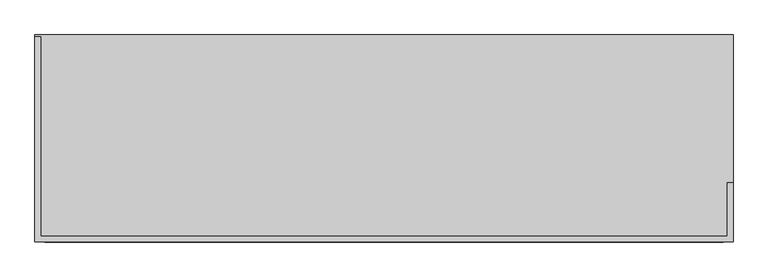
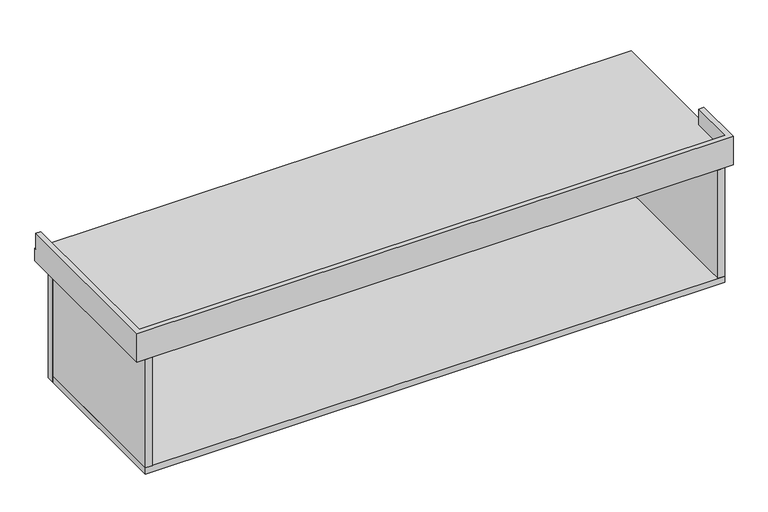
"""IFC4 building model written with IfcOpenShell, lengths in millimetres: furniture geometry, Mueble colgado 2 cajones al lado - lavabo sobreponer : MB4 mueble baño colgado-2 cajones al lado 152."""

from ifc_helpers import new_model, si_unit, frame, origin, place, context, project, spatial, polyline, outline, extrude, faceted_brep, source, transform, mapped, element, save


def furniture_27bb2a8a(model_context):
    return source(origin(), model_context, "Body", "SolidModel", [
        extrude(outline(polyline([(-735.0, 570.0), (-735.0, 590.0), (120.0, 590.0), (120.0, 570.0), (-735.0, 570.0)])), frame((0.0, 0.0, 350.0), z_axis=(0.0, 0.0, 1.0), x_axis=(1.0, 0.0, 0.0)), (0.0, 0.0, 1.0), 350.0),
        faceted_brep([(-760.0, 610.0, 800.0), (-745.0, 610.0, 800.0), (-745.0, 610.0, 750.0), (-760.0, 610.0, 750.0), (-760.0, 90.0, 800.0), (1010.0, 90.0, 800.0), (1010.0, 240.0, 800.0), (995.0, 240.0, 800.0), (995.0, 105.0, 800.0), (-745.0, 105.0, 800.0), (-745.0, 105.0, 750.0), (-760.0, 615.0, 750.0), (-760.0, 615.0, 710.0), (-760.0, 90.0, 710.0), (995.0, 105.0, 750.0), (1010.0, 90.0, 710.0), (1010.0, 240.0, 750.0), (995.0, 240.0, 750.0), (1010.0, 615.0, 710.0), (1010.0, 615.0, 750.0)], [[[0, 1, 2, 3]], [[1, 0, 4, 5, 6, 7, 8, 9]], [[2, 1, 9, 10]], [[0, 3, 11, 12, 13, 4]], [[9, 8, 14, 10]], [[5, 4, 13, 15]], [[7, 6, 16, 17]], [[8, 7, 17, 14]], [[6, 5, 15, 18, 19, 16]], [[19, 11, 3, 2, 10, 14, 17, 16]], [[18, 15, 13, 12]], [[19, 18, 12, 11]]]),
        extrude(outline(polyline([(985.0, 590.0), (985.0, 570.0), (130.0, 570.0), (130.0, 590.0), (985.0, 590.0)])), frame((0.0, 0.0, 350.0), z_axis=(0.0, 0.0, 1.0), x_axis=(1.0, 0.0, 0.0)), (0.0, 0.0, 1.0), 350.0),
        extrude(outline(polyline([(985.0, 90.0), (965.0, 90.0), (965.0, 565.0), (985.0, 565.0), (985.0, 90.0)])), frame((0.0, 0.0, 370.0), z_axis=(0.0, 0.0, 1.0), x_axis=(1.0, 0.0, 0.0)), (0.0, 0.0, 1.0), 340.0),
        extrude(outline(polyline([(-715.0, 90.0), (-735.0, 90.0), (-735.0, 565.0), (-715.0, 565.0), (-715.0, 90.0)])), frame((0.0, 0.0, 370.0), z_axis=(0.0, 0.0, 1.0), x_axis=(1.0, 0.0, 0.0)), (0.0, 0.0, 1.0), 340.0),
        extrude(outline(polyline([(985.0, 565.0), (985.0, 90.0), (-735.0, 90.0), (-735.0, 565.0), (985.0, 565.0)])), frame((0.0, 0.0, 350.0), z_axis=(0.0, 0.0, 1.0), x_axis=(1.0, 0.0, 0.0)), (0.0, 0.0, 1.0), 20.0),
    ])


if __name__ == "__main__":
    model = new_model("IFC4")
    model_context = context("Model", 3, world=origin())
    ifc_project = project(units=[si_unit("LENGTHUNIT", "METRE", prefix="MILLI")], contexts=[model_context])
    site = spatial("IfcSite", under=ifc_project)
    building = spatial("IfcBuilding", under=site)
    placement = place(None, origin())
    furniture_shape = furniture_27bb2a8a(model_context)
    element("IfcFurniture", 1, ObjectType="Mueble colgado 2 cajones al lado - lavabo sobreponer : MB4 mueble baño colgado-2 cajones al lado 152", at=placement, inside=building, context=model_context, shape_type="MappedRepresentation", body=[
        mapped(furniture_shape, transform((0.0, 0.0, 0.0), x_axis=(1.0, 0.0, 0.0), y_axis=(0.0, 1.0, 0.0), z_axis=(0.0, 0.0, 1.0))),
    ])
    save(model, "model.ifc")
